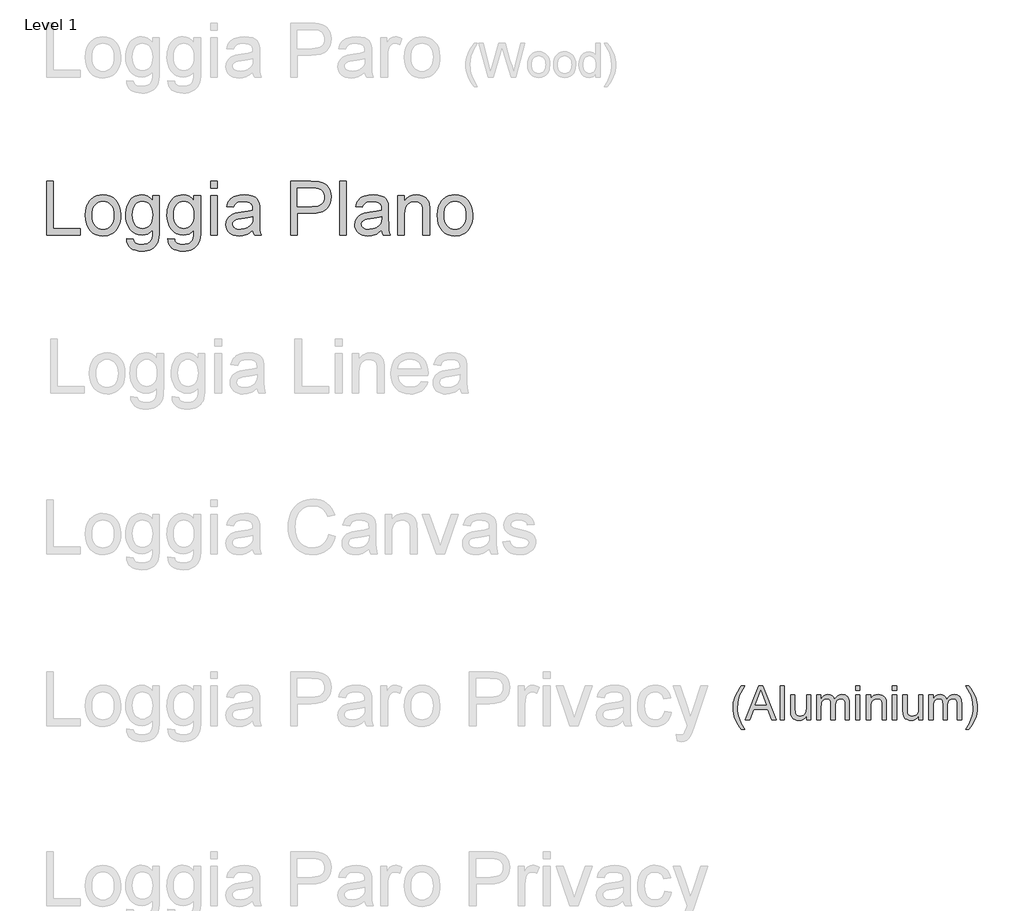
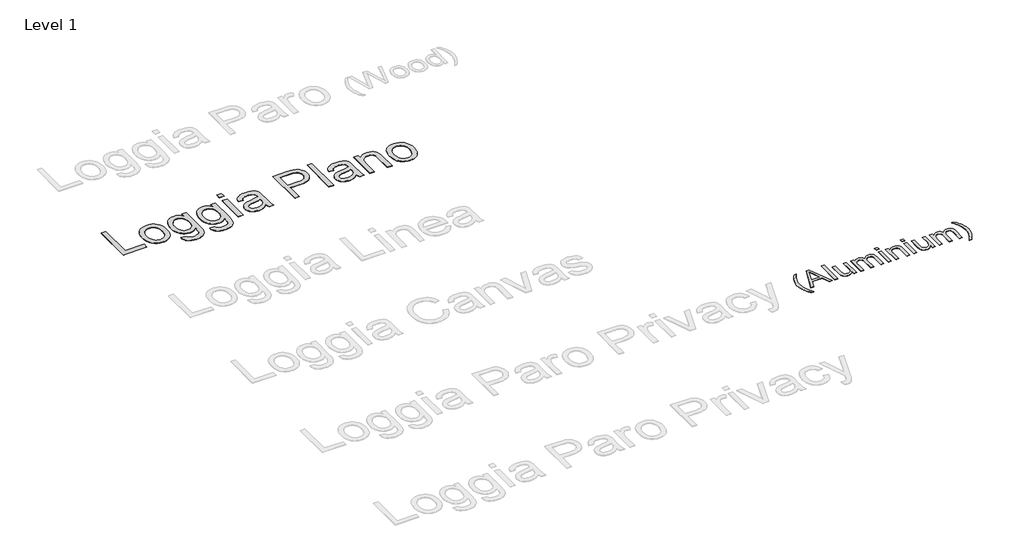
# One storey, part 12 of 80: 2 proxies.
"""IFC4 building model written with IfcOpenShell, lengths in millimetres."""

from ifc_helpers import new_model, si_unit, origin, origin_with_axes, place, context, project, spatial, polyline, outline, extrude, element, save

model = new_model("IFC4")

# Units and contexts
model_context = context("Model", 3, world=origin())
ifc_project = project(units=[si_unit("LENGTHUNIT", "METRE", prefix="MILLI")], contexts=[model_context])

# Site, building, storey
site = spatial("IfcSite", under=ifc_project)
building = spatial("IfcBuilding", under=site)
storey = spatial("IfcBuildingStorey", under=building, Name="Level 1", Elevation=0.0)

# Proxies
placement = place(None, origin())
element("IfcBuildingElementProxy", 1, Name="500mm Arial", ObjectType="500mm Arial", at=placement, inside=storey, context=model_context, shape_type="SweptSolid", body=[
    extrude(outline(polyline([(380273.402934, -61725.5854077), (380248.0573974, -61692.7902607), (380224.7505402, -61657.3126408), (380184.2528639, -61578.3099823), (380168.318975, -61535.7429698), (380156.9376257, -61492.4095365), (380150.1088162, -61448.3096823), (380147.8325464, -61403.4434073), (380149.5340006, -61364.0110559), (380154.6383633, -61325.4217675), (380163.1456344, -61287.6755419), (380175.055814, -61250.7723793), (380193.1586738, -61208.4506214), (380215.5841471, -61166.2208341), (380242.3322339, -61124.0830172), (380273.402934, -61082.0371709), (380320.4918294, -61082.0371709), (380261.7533375, -61181.4879369), (380241.7037688, -61228.6994596), (380226.436666, -61277.8730196), (380214.5724717, -61340.6888703), (380210.6177402, -61403.8112893), (380212.3345228, -61444.0598788), (380217.4848708, -61484.3008042), (380226.068784, -61524.5340653), (380238.0862625, -61564.7596622), (380272.4219154, -61645.1878634), (380320.4918294, -61725.5854077), (380273.402934, -61725.5854077)])), origin_with_axes(), (0.0, 0.0, 1.0), 5.0),
    extrude(outline(polyline([(380332.6319353, -61584.3187216), (380533.1276226, -61082.0371709), (380586.5931393, -61082.0371709), (380787.0888266, -61584.3187216), (380720.7474402, -61584.3187216), (380663.2352216, -61427.355737), (380456.362913, -61427.355737), (380398.9733217, -61584.3187216), (380332.6319353, -61584.3187216)]), holes=[polyline([(380479.4168513, -61364.5705431), (380640.3039106, -61364.5705431), (380595.0544252, -61241.0848201), (380559.860381, -61144.8223647), (380528.5904114, -61230.2936149), (380479.4168513, -61364.5705431)])]), origin_with_axes(), (0.0, 0.0, 1.0), 5.0),
    extrude(outline(polyline([(380846.3178279, -61584.3187216), (380846.3178279, -61082.0371709), (380909.1030217, -61082.0371709), (380909.1030217, -61584.3187216), (380846.3178279, -61584.3187216)])), origin_with_axes(), (0.0, 0.0, 1.0), 5.0),
    extrude(outline(polyline([(381238.7252894, -61584.3187216), (381238.7252894, -61520.9203911), (381216.0085762, -61552.090726), (381189.5517294, -61574.3552509), (381159.3547489, -61587.7139658), (381125.4176349, -61592.1668708), (381094.837444, -61589.0398739), (381066.3725747, -61579.658883), (381042.4909018, -61565.5567398), (381025.6603005, -61548.2662861), (381014.3326008, -61527.2663555), (381006.9596324, -61502.035782), (381003.2808125, -61443.6651721), (381003.2808125, -61215.4557078), (381066.0660063, -61215.4557078), (381066.0660063, -61414.1119852), (381069.8674536, -61478.1234523), (381079.0185182, -61499.4759365), (381094.6994883, -61515.7087295), (381115.8680314, -61525.9634401), (381141.4818153, -61529.381677), (381168.5671272, -61525.886798), (381193.9049996, -61515.4021612), (381214.7976313, -61498.8934566), (381228.5472209, -61477.3263747), (381236.1807723, -61447.7885161), (381238.7252894, -61407.3674819), (381238.7252894, -61215.4557078), (381301.5104832, -61215.4557078), (381301.5104832, -61584.3187216), (381238.7252894, -61584.3187216)])), origin_with_axes(), (0.0, 0.0, 1.0), 5.0),
    extrude(outline(polyline([(381387.8401248, -61584.3187216), (381387.8401248, -61215.4557078), (381450.6253186, -61215.4557078), (381450.6253186, -61276.156237), (381469.5099277, -61248.2738474), (381493.7901394, -61226.430854), (381522.6382192, -61212.3133824), (381555.2264326, -61207.6075585), (381590.1445653, -61212.4053529), (381618.1342538, -61226.798736), (381639.0422138, -61249.8373459), (381652.7151613, -61280.5708209), (381675.6004871, -61248.6493936), (381701.7047803, -61225.8483741), (381731.028041, -61212.1677624), (381763.5702692, -61207.6075585), (381788.7050401, -61209.5044501), (381810.7664635, -61215.1951247), (381829.7545394, -61224.6795824), (381845.6692678, -61237.9578231), (381858.2500656, -61255.1831311), (381867.2363497, -61276.5087906), (381872.6281202, -61301.9348014), (381874.4253771, -61331.4611636), (381874.4253771, -61584.3187216), (381811.6401832, -61584.3187216), (381811.6401832, -61358.4391766), (381810.1839836, -61327.1232217), (381805.815385, -61306.0159922), (381797.6300106, -61291.5612955), (381784.7234839, -61280.2029389), (381768.1228089, -61272.845299), (381748.8549894, -61270.3927524), (381731.06253, -61271.9639151), (381714.8412332, -61276.6774031), (381700.1910992, -61284.5332166), (381687.1121278, -61295.5313554), (381676.3554116, -61309.9937163), (381668.6720428, -61328.2421961), (381664.0620216, -61350.2767948), (381662.5253478, -61376.0975123), (381662.5253478, -61584.3187216), (381599.740154, -61584.3187216), (381599.740154, -61351.4494187), (381596.1073193, -61315.9488061), (381585.2088152, -61290.6262621), (381576.7820182, -61281.7741016), (381566.0329662, -61275.4511298), (381537.5680968, -61270.3927524), (381513.3798556, -61273.765004), (381491.0923381, -61283.8817589), (381472.6982383, -61300.4977623), (381460.1902505, -61323.3677597), (381453.0165516, -61355.0975818), (381450.6253186, -61398.2930594), (381450.6253186, -61584.3187216), (381387.8401248, -61584.3187216)])), origin_with_axes(), (0.0, 0.0, 1.0), 5.0),
    extrude(outline(polyline([(381968.6031678, -61584.3187216), (381968.6031678, -61215.4557078), (382031.3883617, -61215.4557078), (382031.3883617, -61584.3187216), (381968.6031678, -61584.3187216)])), origin_with_axes(), (0.0, 0.0, 1.0), 5.0),
    extrude(outline(polyline([(381968.6031678, -61144.8223647), (381968.6031678, -61082.0371709), (382031.3883617, -61082.0371709), (382031.3883617, -61144.8223647), (381968.6031678, -61144.8223647)])), origin_with_axes(), (0.0, 0.0, 1.0), 5.0),
    extrude(outline(polyline([(382125.5661524, -61584.3187216), (382125.5661524, -61215.4557078), (382188.3513463, -61215.4557078), (382188.3513463, -61266.9591871), (382210.1636829, -61240.9928496), (382236.3599466, -61222.4454657), (382266.9401375, -61211.3170353), (382301.9042555, -61207.6075585), (382332.8523283, -61210.5965997), (382361.1945703, -61219.5637234), (382384.8309885, -61233.389955), (382401.6615898, -61250.9563203), (382413.0812601, -61272.2168339), (382420.4848852, -61297.1255107), (382423.7958232, -61357.8260399), (382423.7958232, -61584.3187216), (382361.0106293, -61584.3187216), (382361.0106293, -61366.2873258), (382359.2018762, -61333.8217397), (382353.7756168, -61310.7371445), (382343.7661608, -61294.1977832), (382328.2078181, -61281.3678986), (382308.2655483, -61273.1365389), (382285.104311, -61270.3927524), (382266.039593, -61271.9332582), (382248.3314399, -61276.5547758), (382231.9798516, -61284.2573051), (382216.9848282, -61295.0408461), (382204.4576799, -61310.1316721), (382195.5097168, -61330.7560564), (382190.1409389, -61356.9139991), (382188.3513463, -61388.6055002), (382188.3513463, -61584.3187216), (382125.5661524, -61584.3187216)])), origin_with_axes(), (0.0, 0.0, 1.0), 5.0),
    extrude(outline(polyline([(382510.1254647, -61144.8223647), (382510.1254647, -61082.0371709), (382572.9106586, -61082.0371709), (382572.9106586, -61144.8223647), (382510.1254647, -61144.8223647)])), origin_with_axes(), (0.0, 0.0, 1.0), 5.0),
    extrude(outline(polyline([(382510.1254647, -61584.3187216), (382510.1254647, -61215.4557078), (382572.9106586, -61215.4557078), (382572.9106586, -61584.3187216), (382510.1254647, -61584.3187216)])), origin_with_axes(), (0.0, 0.0, 1.0), 5.0),
    extrude(outline(polyline([(382902.5329262, -61584.3187216), (382902.5329262, -61520.9203911), (382879.816213, -61552.090726), (382853.3593662, -61574.3552509), (382823.1623858, -61587.7139658), (382789.2252717, -61592.1668708), (382758.6450809, -61589.0398739), (382730.1802115, -61579.658883), (382706.2985387, -61565.5567398), (382689.4679374, -61548.2662861), (382678.1402376, -61527.2663555), (382670.7672693, -61502.035782), (382667.0884493, -61443.6651721), (382667.0884493, -61215.4557078), (382729.8736432, -61215.4557078), (382729.8736432, -61414.1119852), (382733.6750905, -61478.1234523), (382742.8261551, -61499.4759365), (382758.5071251, -61515.7087295), (382779.6756683, -61525.9634401), (382805.2894522, -61529.381677), (382832.3747641, -61525.886798), (382857.7126365, -61515.4021612), (382878.6052681, -61498.8934566), (382892.3548577, -61477.3263747), (382899.9884091, -61447.7885161), (382902.5329262, -61407.3674819), (382902.5329262, -61215.4557078), (382965.3181201, -61215.4557078), (382965.3181201, -61584.3187216), (382902.5329262, -61584.3187216)])), origin_with_axes(), (0.0, 0.0, 1.0), 5.0),
    extrude(outline(polyline([(383051.6477616, -61584.3187216), (383051.6477616, -61215.4557078), (383114.4329555, -61215.4557078), (383114.4329555, -61276.156237), (383133.3175646, -61248.2738474), (383157.5977762, -61226.430854), (383186.445856, -61212.3133824), (383219.0340694, -61207.6075585), (383253.9522021, -61212.4053529), (383281.9418906, -61226.798736), (383302.8498507, -61249.8373459), (383316.5227982, -61280.5708209), (383339.4081239, -61248.6493936), (383365.5124172, -61225.8483741), (383394.8356779, -61212.1677624), (383427.377906, -61207.6075585), (383452.5126769, -61209.5044501), (383474.5741003, -61215.1951247), (383493.5621762, -61224.6795824), (383509.4769046, -61237.9578231), (383522.0577024, -61255.1831311), (383531.0439866, -61276.5087906), (383536.4357571, -61301.9348014), (383538.2330139, -61331.4611636), (383538.2330139, -61584.3187216), (383475.4478201, -61584.3187216), (383475.4478201, -61358.4391766), (383473.9916205, -61327.1232217), (383469.6230218, -61306.0159922), (383461.4376474, -61291.5612955), (383448.5311208, -61280.2029389), (383431.9304457, -61272.845299), (383412.6626262, -61270.3927524), (383394.8701668, -61271.9639151), (383378.6488701, -61276.6774031), (383363.998736, -61284.5332166), (383350.9197647, -61295.5313554), (383340.1630484, -61309.9937163), (383332.4796797, -61328.2421961), (383327.8696584, -61350.2767948), (383326.3329847, -61376.0975123), (383326.3329847, -61584.3187216), (383263.5477908, -61584.3187216), (383263.5477908, -61351.4494187), (383259.9149561, -61315.9488061), (383249.016452, -61290.6262621), (383240.5896551, -61281.7741016), (383229.840603, -61275.4511298), (383201.3757337, -61270.3927524), (383177.1874925, -61273.765004), (383154.8999749, -61283.8817589), (383136.5058752, -61300.4977623), (383123.9978873, -61323.3677597), (383116.8241884, -61355.0975818), (383114.4329555, -61398.2930594), (383114.4329555, -61584.3187216), (383051.6477616, -61584.3187216)])), origin_with_axes(), (0.0, 0.0, 1.0), 5.0),
    extrude(outline(polyline([(383648.1071031, -61725.5854077), (383601.0182078, -61725.5854077), (383649.0881218, -61645.1878634), (383683.4237747, -61564.7596622), (383695.4412532, -61524.5340653), (383704.0251664, -61484.3008042), (383709.1755143, -61444.0598788), (383710.892297, -61403.8112893), (383706.9375655, -61341.1487228), (383695.0733712, -61278.9766656), (383680.0821799, -61229.7111351), (383660.1245816, -61182.4689555), (383601.0182078, -61082.0371709), (383648.1071031, -61082.0371709), (383679.1778033, -61124.0830172), (383705.92589, -61166.2208341), (383728.3513633, -61208.4506214), (383746.4542232, -61250.7723793), (383758.3644028, -61287.6755419), (383766.8716739, -61325.4217675), (383771.9760366, -61364.0110559), (383773.6774908, -61403.4434073), (383771.3897247, -61448.3096823), (383764.5264262, -61492.4095365), (383753.0875954, -61535.7429698), (383737.0732323, -61578.3099823), (383696.5295708, -61657.3126408), (383648.1071031, -61725.5854077)])), origin_with_axes(), (0.0, 0.0, 1.0), 5.0),
])
element("IfcBuildingElementProxy", 2, Name="800mm Arial", ObjectType="800mm Arial", at=placement, inside=storey, context=model_context, shape_type="SweptSolid", body=[
    extrude(outline(polyline([(369965.6331768, -54390.2957285), (369965.6331768, -53590.9070302), (370065.556764, -53590.9070302), (370065.556764, -54290.3721412), (370465.2511132, -54290.3721412), (370465.2511132, -54390.2957285), (369965.6331768, -54390.2957285)])), origin_with_axes(), (0.0, 0.0, 1.0), 5.0),
    extrude(outline(polyline([(370540.1938037, -54096.7701908), (370545.5973864, -54020.7419047), (370552.3518647, -53986.6706694), (370561.8081343, -53955.2280391), (370573.9661953, -53926.4140139), (370588.8260477, -53900.2285939), (370606.3876913, -53876.671779), (370626.6511263, -53855.7435691), (370664.7323567, -53827.3107222), (370706.7656431, -53807.0015458), (370752.7509853, -53794.81604), (370802.6883836, -53790.7542047), (370857.8159047, -53795.7003735), (370907.6618201, -53810.5388799), (370952.22613, -53835.2697238), (370991.5088342, -53869.8929052), (371023.5704979, -53913.2374447), (371046.4716863, -53964.1323627), (371060.2123993, -54022.5776591), (371064.792637, -54088.5733341), (371062.7678182, -54142.060264), (371056.6933618, -54189.5215284), (371046.5692679, -54230.9571273), (371032.3955364, -54266.3670607), (371014.349034, -54296.9528023), (370992.6066275, -54323.9158259), (370967.1683168, -54347.2561316), (370938.0341019, -54366.9737194), (370906.3383693, -54382.6416695), (370873.2155054, -54393.8330625), (370838.6655101, -54400.5478983), (370802.6883836, -54402.7861769), (370746.7558141, -54397.8583047), (370696.4463859, -54383.074688), (370651.760099, -54358.4353269), (370612.6969535, -54323.9402213), (370580.9768254, -54280.1748611), (370558.3195911, -54227.7247359), (370544.7252505, -54166.5898458), (370540.1938037, -54096.7701908)]), holes=[polyline([(370640.117391, -54096.5750276), (370643.0082467, -54145.0426025), (370651.6808139, -54187.0088015), (370666.1350926, -54222.4736245), (370686.3710828, -54251.4370715), (370710.9860485, -54273.9357357), (370738.5772539, -54290.0062101), (370769.1446989, -54299.6484947), (370802.6883836, -54302.8625896), (370836.0613004, -54299.6301982), (370866.5067684, -54289.9330239), (370894.0247876, -54273.7710667), (370918.6153579, -54251.1443267), (370938.8513481, -54221.8942336), (370953.3056267, -54185.8622174), (370961.9781939, -54143.048278), (370964.8690497, -54093.4524155), (370961.9598974, -54046.5217511), (370953.2324405, -54005.6533455), (370938.6866791, -53970.8471985), (370918.322613, -53942.1033101), (370893.6405599, -53919.6046459), (370866.1408373, -53903.5341716), (370835.8234452, -53893.8918869), (370802.6883836, -53890.677792), (370769.1446989, -53893.8796892), (370738.5772539, -53903.4853807), (370710.9860485, -53919.4948666), (370686.3710828, -53941.9081468), (370666.1350926, -53970.7862099), (370651.6808139, -54006.1900444), (370643.0082467, -54048.1196503), (370640.117391, -54096.5750276)])]), origin_with_axes(), (0.0, 0.0, 1.0), 5.0),
    extrude(outline(polyline([(371152.2257759, -54440.2575221), (371252.1493631, -54452.7479706), (371256.3697686, -54469.5808014), (371263.1760871, -54483.9740916), (371272.5683189, -54495.927841), (371284.5464637, -54505.4420498), (371303.9286146, -54515.1758172), (371326.5553547, -54522.1285082), (371381.5426022, -54527.690661), (371412.7443278, -54526.1171573), (371440.1891607, -54521.396646), (371463.877101, -54513.5291272), (371483.8081485, -54502.5146009), (371500.3970253, -54488.6580097), (371514.0584533, -54472.2642962), (371524.7924324, -54453.3334603), (371532.5989626, -54431.8655021), (371538.014743, -54388.8807949), (371539.4296766, -54315.353038), (371506.1787368, -54348.1404651), (371469.0733227, -54371.5600559), (371428.1134342, -54385.6118103), (371383.2990715, -54390.2957285), (371328.5130861, -54384.843355), (371280.2772675, -54368.4862346), (371258.6156707, -54356.2183943), (371238.5916157, -54341.2243672), (371203.4561307, -54303.0577529), (371175.5782793, -54257.2675738), (371155.6655283, -54207.1350123), (371143.7178776, -54152.6600684), (371139.7353274, -54093.842742), (371141.522291, -54052.6937891), (371146.8831817, -54013.1671309), (371155.8179995, -53975.2627671), (371168.3267445, -53938.980698), (371184.2203522, -53905.5284961), (371203.3097582, -53876.113734), (371225.5949626, -53850.7364118), (371251.0759652, -53829.3965295), (371279.3441432, -53812.4905124), (371309.9908733, -53800.4147859), (371343.0161556, -53793.16935), (371378.4199901, -53790.7542047), (371425.1493923, -53796.2187759), (371467.5608074, -53812.6124895), (371505.6542356, -53839.9353454), (371539.4296766, -53878.1873436), (371539.4296766, -53803.2446532), (371639.3532639, -53803.2446532), (371639.3532639, -54310.0836301), (371637.6455854, -54373.5909735), (371632.5225499, -54427.1083977), (371623.9841575, -54470.6359028), (371612.030408, -54504.1734886), (371596.3746555, -54531.2218962), (371576.730254, -54555.2818664), (371553.0972034, -54576.3533992), (371525.4755038, -54594.4364947), (371494.1457023, -54608.9517619), (371459.3883461, -54619.3198099), (371421.2034352, -54625.5406387), (371379.5909696, -54627.6142483), (371330.6354865, -54624.6928983), (371286.6200733, -54615.9288483), (371247.5447301, -54601.3220984), (371213.4094567, -54580.8726484), (371185.8365479, -54554.556103), (371166.4482982, -54522.3480669), (371155.2447075, -54484.2485399), (371152.2257759, -54440.2575221)]), holes=[polyline([(371239.6589147, -54087.012028), (371242.324113, -54136.4188261), (371250.3197076, -54178.6655723), (371263.6456987, -54213.7522665), (371282.3020863, -54241.6789087), (371304.983716, -54262.9821979), (371330.3854336, -54278.1988331), (371358.5072391, -54287.3288142), (371389.3491324, -54290.3721412), (371419.8860832, -54287.3471107), (371447.8737139, -54278.2720193), (371473.3120246, -54263.1468669), (371496.2010153, -54241.9716536), (371515.1135546, -54214.3194597), (371528.6225113, -54179.7633656), (371536.7278853, -54138.3033713), (371539.4296766, -54089.9394769), (371536.6486002, -54043.5943023), (371528.305371, -54003.3113864), (371514.399989, -53969.0907292), (371494.9324542, -53940.9323306), (371471.5494565, -53918.94597), (371445.897686, -53903.2414267), (371417.9771426, -53893.8187007), (371387.7878264, -53890.677792), (371358.1047148, -53893.7699099), (371330.7269693, -53903.0462634), (371305.6545897, -53918.5068526), (371282.887576, -53940.1516775), (371263.9750367, -53967.8831565), (371250.4660801, -54001.6037079), (371242.3607061, -54041.3133317), (371239.6589147, -54087.012028)])]), origin_with_axes(), (0.0, 0.0, 1.0), 5.0),
    extrude(outline(polyline([(371764.257748, -54440.2575221), (371864.1813353, -54452.7479706), (371868.4017407, -54469.5808014), (371875.2080593, -54483.9740916), (371884.600291, -54495.927841), (371896.5784359, -54505.4420498), (371915.9605868, -54515.1758172), (371938.5873268, -54522.1285082), (371993.5745743, -54527.690661), (372024.7763, -54526.1171573), (372052.2211329, -54521.396646), (372075.9090731, -54513.5291272), (372095.8401207, -54502.5146009), (372112.4289975, -54488.6580097), (372126.0904254, -54472.2642962), (372136.8244046, -54453.3334603), (372144.6309348, -54431.8655021), (372150.0467152, -54388.8807949), (372151.4616488, -54315.353038), (372118.210709, -54348.1404651), (372081.1052948, -54371.5600559), (372040.1454064, -54385.6118103), (371995.3310436, -54390.2957285), (371940.5450582, -54384.843355), (371892.3092397, -54368.4862346), (371870.6476429, -54356.2183943), (371850.6235878, -54341.2243672), (371815.4881028, -54303.0577529), (371787.6102514, -54257.2675738), (371767.6975004, -54207.1350123), (371755.7498498, -54152.6600684), (371751.7672996, -54093.842742), (371753.5542632, -54052.6937891), (371758.9151539, -54013.1671309), (371767.8499717, -53975.2627671), (371780.3587167, -53938.980698), (371796.2523244, -53905.5284961), (371815.3417304, -53876.113734), (371837.6269347, -53850.7364118), (371863.1079374, -53829.3965295), (371891.3761153, -53812.4905124), (371922.0228454, -53800.4147859), (371955.0481277, -53793.16935), (371990.4519622, -53790.7542047), (372037.1813644, -53796.2187759), (372079.5927796, -53812.6124895), (372117.6862077, -53839.9353454), (372151.4616488, -53878.1873436), (372151.4616488, -53803.2446532), (372251.3852361, -53803.2446532), (372251.3852361, -54310.0836301), (372249.6775576, -54373.5909735), (372244.5545221, -54427.1083977), (372236.0161296, -54470.6359028), (372224.0623802, -54504.1734886), (372208.4066277, -54531.2218962), (372188.7622262, -54555.2818664), (372165.1291756, -54576.3533992), (372137.5074759, -54594.4364947), (372106.1776744, -54608.9517619), (372071.4203182, -54619.3198099), (372033.2354073, -54625.5406387), (371991.6229418, -54627.6142483), (371942.6674587, -54624.6928983), (371898.6520455, -54615.9288483), (371859.5767022, -54601.3220984), (371825.4414289, -54580.8726484), (371797.8685201, -54554.556103), (371778.4802703, -54522.3480669), (371767.2766796, -54484.2485399), (371764.257748, -54440.2575221)]), holes=[polyline([(371851.6908869, -54087.012028), (371854.3560851, -54136.4188261), (371862.3516798, -54178.6655723), (371875.6776709, -54213.7522665), (371894.3340584, -54241.6789087), (371917.0156881, -54262.9821979), (371942.4174057, -54278.1988331), (371970.5392112, -54287.3288142), (372001.3811046, -54290.3721412), (372031.9180554, -54287.3471107), (372059.9056861, -54278.2720193), (372085.3439968, -54263.1468669), (372108.2329875, -54241.9716536), (372127.1455268, -54214.3194597), (372140.6544835, -54179.7633656), (372148.7598575, -54138.3033713), (372151.4616488, -54089.9394769), (372148.6805724, -54043.5943023), (372140.3373432, -54003.3113864), (372126.4319611, -53969.0907292), (372106.9644263, -53940.9323306), (372083.5814287, -53918.94597), (372057.9296581, -53903.2414267), (372030.0091148, -53893.8187007), (371999.8197985, -53890.677792), (371970.136687, -53893.7699099), (371942.7589414, -53903.0462634), (371917.6865618, -53918.5068526), (371894.9195482, -53940.1516775), (371876.0070089, -53967.8831565), (371862.4980522, -54001.6037079), (371854.3926782, -54041.3133317), (371851.6908869, -54087.012028)])]), origin_with_axes(), (0.0, 0.0, 1.0), 5.0),
    extrude(outline(polyline([(372401.270617, -54390.2957285), (372401.270617, -53803.2446532), (372501.1942043, -53803.2446532), (372501.1942043, -54390.2957285), (372401.270617, -54390.2957285)])), origin_with_axes(), (0.0, 0.0, 1.0), 5.0),
    extrude(outline(polyline([(372401.270617, -53690.8306174), (372401.270617, -53590.9070302), (372501.1942043, -53590.9070302), (372501.1942043, -53690.8306174), (372401.270617, -53690.8306174)])), origin_with_axes(), (0.0, 0.0, 1.0), 5.0),
    extrude(outline(polyline([(373025.7930376, -54315.353038), (372978.051226, -54356.2885311), (372953.6497201, -54371.4502765), (372928.8944808, -54383.074688), (372877.2006132, -54397.8583047), (372821.8474346, -54402.7861769), (372777.356311, -54399.822135), (372738.3419563, -54390.9300091), (372704.8043704, -54376.1097993), (372676.7435535, -54355.3615056), (372654.586425, -54330.00248), (372638.7599047, -54301.3500744), (372629.2639925, -54269.4042888), (372626.0986884, -54234.1651234), (372630.8801882, -54192.7417222), (372645.2246876, -54155.1240045), (372667.3513218, -54122.9220672), (372695.4792261, -54097.7460071), (372728.5350026, -54078.7175896), (372765.4452535, -54064.95858), (372851.9025761, -54049.9310093), (372954.0705409, -54034.1227855), (373025.2075478, -54015.5822761), (373025.7930376, -53993.3336649), (373024.0731614, -53969.1090257), (373018.9135328, -53948.7388608), (373010.3141518, -53932.2231702), (372998.2750184, -53919.561954), (372977.4657362, -53906.9251331), (372952.1189083, -53897.8988325), (372922.2345347, -53892.4830522), (372887.8126153, -53890.677792), (372828.2878221, -53895.4836872), (372805.2585578, -53901.4910562), (372786.7180485, -53909.9013728), (372771.4831168, -53921.373313), (372758.3705855, -53936.5655527), (372747.3804546, -53955.478092), (372738.5127241, -53978.1109309), (372638.5891368, -53965.6204825), (372655.9342713, -53910.9747707), (372667.8087356, -53888.0430881), (372681.8177981, -53868.0388543), (372698.5652451, -53850.5595451), (372718.6548628, -53835.2026364), (372742.0866513, -53821.9681281), (372768.8606105, -53810.8560202), (372830.2638501, -53795.7796586), (372900.6933902, -53790.7542047), (372968.2442724, -53795.1941688), (373021.7921908, -53808.5140611), (373062.1665895, -53828.5426903), (373090.1969122, -53853.1088652), (373108.7862124, -53883.481147), (373120.8375435, -53920.9280968), (373124.4968545, -53955.4719932), (373125.7166249, -54008.3612357), (373125.7166249, -54132.68023), (373126.9851861, -54240.9714419), (373130.7908696, -54306.2779466), (373138.3046549, -54349.1894676), (373150.6975217, -54390.2957285), (373050.7739344, -54390.2957285), (373034.7705474, -54355.5566689), (373025.7930376, -54315.353038)]), holes=[polyline([(373025.7930376, -54115.5058634), (372958.6568774, -54132.1435311), (372864.5881878, -54146.1464947), (372812.7479478, -54153.8066525), (372778.6187733, -54162.345045), (372756.2481851, -54173.4205598), (372739.6837037, -54188.6920846), (372729.4376327, -54206.9886399), (372726.0222757, -54227.1392461), (372727.8824255, -54242.6669227), (372733.4628749, -54256.8528519), (372742.7636238, -54269.6970337), (372755.7846723, -54281.1994682), (372772.4040434, -54290.6770838), (372792.4997599, -54297.4468093), (372843.1202296, -54302.8625896), (372896.7901251, -54296.8857149), (372921.2831138, -54289.4146215), (372944.2147964, -54278.9550907), (372982.6619579, -54252.5348649), (373009.3993241, -54221.0891852), (373021.2554919, -54188.6920846), (373025.2075478, -54143.8045356), (373025.7930376, -54115.5058634)])]), origin_with_axes(), (0.0, 0.0, 1.0), 5.0),
    extrude(outline(polyline([(373587.8632161, -54390.2957285), (373587.8632161, -53590.9070302), (373884.1210394, -53590.9070302), (373953.1112505, -53592.8098719), (374003.5609523, -53598.5183972), (374056.8161259, -53612.7409195), (374100.6546724, -53635.8921608), (374119.2622691, -53651.0783017), (374135.9548264, -53669.0211235), (374163.5948226, -53713.1768103), (374174.0116614, -53738.615121), (374181.4522606, -53765.2610044), (374187.4047399, -53822.175489), (374183.3855966, -53871.2468503), (374171.3281666, -53916.3905511), (374151.2324501, -53957.6065913), (374123.0984469, -53994.894971), (374105.4041532, -54011.4533535), (374084.4744187, -54025.8039517), (374060.3092433, -54037.9467656), (374032.908627, -54047.8817951), (373968.4010719, -54061.1285011), (373890.9517534, -54065.5440698), (373687.7868034, -54065.5440698), (373687.7868034, -54390.2957285), (373587.8632161, -54390.2957285)]), holes=[polyline([(373687.7868034, -53965.6204825), (373896.806651, -53965.6204825), (373944.8656029, -53963.3273142), (373985.4107695, -53956.4478095), (374018.4421506, -53944.9819681), (374043.9597464, -53928.9297903), (374063.0003616, -53908.7181956), (374076.600801, -53884.7741035), (374084.7610647, -53857.0975142), (374087.4811526, -53825.6884276), (374085.8771546, -53802.3664185), (374081.0651605, -53780.8008787), (374073.0451705, -53760.9918081), (374061.8171844, -53742.9392069), (374047.9788897, -53727.2285648), (374032.127974, -53714.4453715), (374014.2644372, -53704.589627), (373994.3882793, -53697.6613314), (373955.8435361, -53692.5382959), (373894.464692, -53690.8306174), (373687.7868034, -53690.8306174), (373687.7868034, -53965.6204825)])]), origin_with_axes(), (0.0, 0.0, 1.0), 5.0),
    extrude(outline(polyline([(374312.309224, -54390.2957285), (374312.309224, -53590.9070302), (374412.2328113, -53590.9070302), (374412.2328113, -54390.2957285), (374312.309224, -54390.2957285)])), origin_with_axes(), (0.0, 0.0, 1.0), 5.0),
    extrude(outline(polyline([(374936.8316446, -54315.353038), (374889.089833, -54356.2885311), (374864.6883271, -54371.4502765), (374839.9330878, -54383.074688), (374788.2392202, -54397.8583047), (374732.8860416, -54402.7861769), (374688.394918, -54399.822135), (374649.3805633, -54390.9300091), (374615.8429774, -54376.1097993), (374587.7821604, -54355.3615056), (374565.625032, -54330.00248), (374549.7985117, -54301.3500744), (374540.3025995, -54269.4042888), (374537.1372954, -54234.1651234), (374541.9187952, -54192.7417222), (374556.2632945, -54155.1240045), (374578.3899287, -54122.9220672), (374606.5178331, -54097.7460071), (374639.5736096, -54078.7175896), (374676.4838605, -54064.95858), (374762.9411831, -54049.9310093), (374865.1091478, -54034.1227855), (374936.2461548, -54015.5822761), (374936.8316446, -53993.3336649), (374935.1117684, -53969.1090257), (374929.9521398, -53948.7388608), (374921.3527588, -53932.2231702), (374909.3136254, -53919.561954), (374888.5043432, -53906.9251331), (374863.1575153, -53897.8988325), (374833.2731416, -53892.4830522), (374798.8512223, -53890.677792), (374739.3264291, -53895.4836872), (374716.2971648, -53901.4910562), (374697.7566554, -53909.9013728), (374682.5217237, -53921.373313), (374669.4091924, -53936.5655527), (374658.4190616, -53955.478092), (374649.5513311, -53978.1109309), (374549.6277438, -53965.6204825), (374566.9728782, -53910.9747707), (374578.8473426, -53888.0430881), (374592.8564051, -53868.0388543), (374609.6038521, -53850.5595451), (374629.6934698, -53835.2026364), (374653.1252582, -53821.9681281), (374679.8992175, -53810.8560202), (374741.302457, -53795.7796586), (374811.7319972, -53790.7542047), (374879.2828793, -53795.1941688), (374932.8307978, -53808.5140611), (374973.2051965, -53828.5426903), (375001.2355192, -53853.1088652), (375019.8248194, -53883.481147), (375031.8761505, -53920.9280968), (375035.5354615, -53955.4719932), (375036.7552319, -54008.3612357), (375036.7552319, -54132.68023), (375038.023793, -54240.9714419), (375041.8294765, -54306.2779466), (375049.3432619, -54349.1894676), (375061.7361287, -54390.2957285), (374961.8125414, -54390.2957285), (374945.8091544, -54355.5566689), (374936.8316446, -54315.353038)]), holes=[polyline([(374936.8316446, -54115.5058634), (374869.6954844, -54132.1435311), (374775.6267948, -54146.1464947), (374723.7865548, -54153.8066525), (374689.6573803, -54162.345045), (374667.286792, -54173.4205598), (374650.7223106, -54188.6920846), (374640.4762397, -54206.9886399), (374637.0608827, -54227.1392461), (374638.9210325, -54242.6669227), (374644.5014818, -54256.8528519), (374653.8022308, -54269.6970337), (374666.8232793, -54281.1994682), (374683.4426504, -54290.6770838), (374703.5383669, -54297.4468093), (374754.1588366, -54302.8625896), (374807.8287321, -54296.8857149), (374832.3217208, -54289.4146215), (374855.2534034, -54278.9550907), (374893.7005649, -54252.5348649), (374920.437931, -54221.0891852), (374932.2940989, -54188.6920846), (374936.2461548, -54143.8045356), (374936.8316446, -54115.5058634)])]), origin_with_axes(), (0.0, 0.0, 1.0), 5.0),
    extrude(outline(polyline([(375174.1501644, -54390.2957285), (375174.1501644, -53803.2446532), (375274.0737517, -53803.2446532), (375274.0737517, -53885.2132209), (375290.558948, -53863.074389), (375308.7884159, -53843.8874013), (375328.7621554, -53827.6522579), (375350.4801666, -53814.3689588), (375373.9424493, -53804.0375039), (375399.1490036, -53796.6578932), (375454.7949271, -53790.7542047), (375504.049254, -53795.5113091), (375549.1563616, -53809.7826222), (375586.7740793, -53831.7872794), (375613.5602362, -53859.7444159), (375631.7348145, -53893.5808455), (375643.5177961, -53933.2233819), (375647.469852, -53971.1338445), (375648.787204, -54029.8291939), (375648.787204, -54390.2957285), (375548.8636167, -54390.2957285), (375548.8636167, -54043.2954586), (375545.9849587, -53991.6259864), (375537.3489846, -53954.8865034), (375521.4187838, -53928.5638592), (375496.6574456, -53908.1449035), (375464.9190211, -53895.0445699), (375428.057561, -53890.677792), (375397.7157735, -53893.1295304), (375369.5329795, -53900.4847457), (375343.509179, -53912.7434377), (375319.6443721, -53929.9056066), (375299.7072256, -53953.9228848), (375285.4664068, -53986.746905), (375276.9219155, -54028.3776671), (375274.0737517, -54078.8151712), (375274.0737517, -54390.2957285), (375174.1501644, -54390.2957285)])), origin_with_axes(), (0.0, 0.0, 1.0), 5.0),
    extrude(outline(polyline([(375761.2012397, -54096.7701908), (375766.6048224, -54020.7419047), (375773.3593007, -53986.6706694), (375782.8155704, -53955.2280391), (375794.9736314, -53926.4140139), (375809.8334837, -53900.2285939), (375827.3951274, -53876.671779), (375847.6585623, -53855.7435691), (375885.7397927, -53827.3107222), (375927.7730791, -53807.0015458), (375973.7584214, -53794.81604), (376023.6958196, -53790.7542047), (376078.8233407, -53795.7003735), (376128.6692562, -53810.5388799), (376173.233566, -53835.2697238), (376212.5162702, -53869.8929052), (376244.577934, -53913.2374447), (376267.4791223, -53964.1323627), (376281.2198353, -54022.5776591), (376285.800073, -54088.5733341), (376283.7752542, -54142.060264), (376277.7007979, -54189.5215284), (376267.576704, -54230.9571273), (376253.4029725, -54266.3670607), (376235.3564701, -54296.9528023), (376213.6140635, -54323.9158259), (376188.1757528, -54347.2561316), (376159.041538, -54366.9737194), (376127.3458054, -54382.6416695), (376094.2229414, -54393.8330625), (376059.6729462, -54400.5478983), (376023.6958196, -54402.7861769), (375967.7632501, -54397.8583047), (375917.4538219, -54383.074688), (375872.767535, -54358.4353269), (375833.7043895, -54323.9402213), (375801.9842615, -54280.1748611), (375779.3270272, -54227.7247359), (375765.7326866, -54166.5898458), (375761.2012397, -54096.7701908)]), holes=[polyline([(375861.124827, -54096.5750276), (375864.0156828, -54145.0426025), (375872.68825, -54187.0088015), (375887.1425287, -54222.4736245), (375907.3785188, -54251.4370715), (375931.9934845, -54273.9357357), (375959.5846899, -54290.0062101), (375990.1521349, -54299.6484947), (376023.6958196, -54302.8625896), (376057.0687365, -54299.6301982), (376087.5142045, -54289.9330239), (376115.0322236, -54273.7710667), (376139.622794, -54251.1443267), (376159.8587841, -54221.8942336), (376174.3130628, -54185.8622174), (376182.98563, -54143.048278), (376185.8764857, -54093.4524155), (376182.9673334, -54046.5217511), (376174.2398766, -54005.6533455), (376159.6941151, -53970.8471985), (376139.3300491, -53942.1033101), (376114.647996, -53919.6046459), (376087.1482734, -53903.5341716), (376056.8308813, -53893.8918869), (376023.6958196, -53890.677792), (375990.1521349, -53893.8796892), (375959.5846899, -53903.4853807), (375931.9934845, -53919.4948666), (375907.3785188, -53941.9081468), (375887.1425287, -53970.7862099), (375872.68825, -54006.1900444), (375864.0156828, -54048.1196503), (375861.124827, -54096.5750276)])]), origin_with_axes(), (0.0, 0.0, 1.0), 5.0),
])

save(model, "model.ifc")
